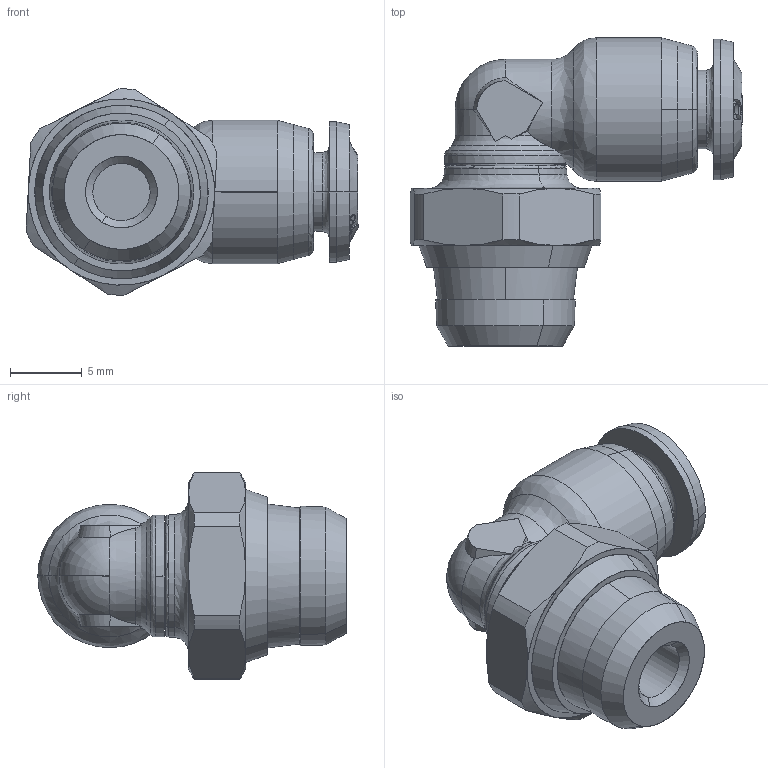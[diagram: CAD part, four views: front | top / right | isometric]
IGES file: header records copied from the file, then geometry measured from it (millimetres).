
Start section: SolidWorks IGES file using analytic representation for surfaces
Global section: file name: K:\Disegni Esecutivi\Serie 55000\ASSIEMI_55000\55111\ASSIEMI_PIENI_55111\5511100001.IGS; native system: SolidWorks 2007; preprocessor: SolidWorks 2007; author: cad02; date: 071123.143502; units: millimetre
Bounding box: 23.16 x 21.5 x 14.4 mm (x, y, z)
Surface area: 1500.8 mm2 (no closed solid volume)
Topology: 0 solids, 0 shells, 253 faces, 2602 edges, 2600 vertices
Faces by surface type: bspline 165, revolution 88
